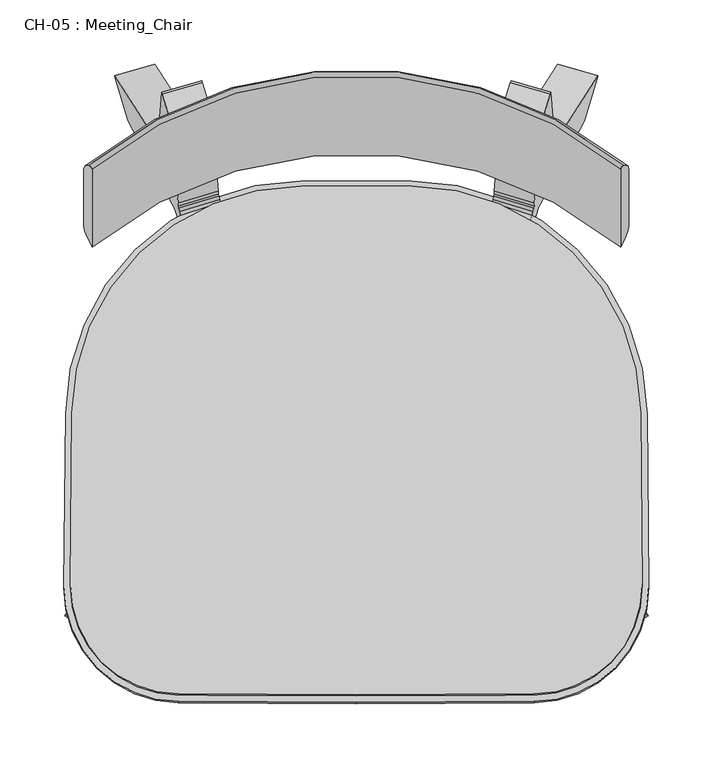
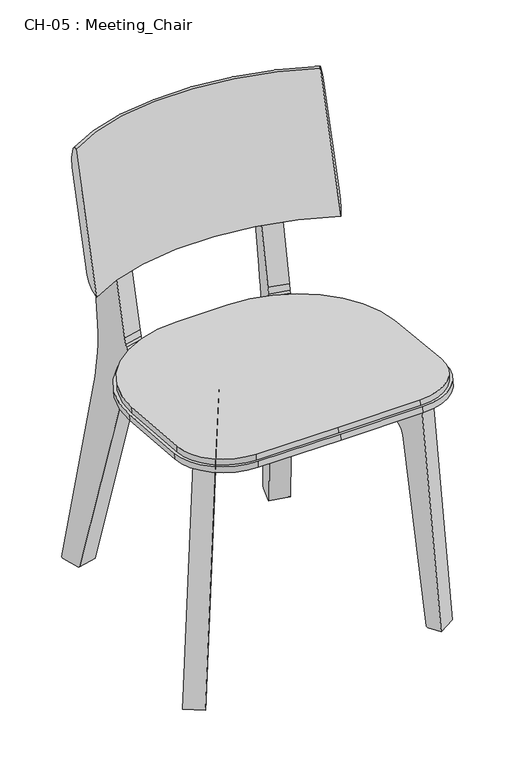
"""IFC4 building model written with IfcOpenShell, lengths in millimetres: furniture geometry, CH-05 : Meeting_Chair."""

from ifc_helpers import new_model, si_unit, point, frame, frame_2d, origin, place, context, project, spatial, polyline, circle_curve, ellipse_curve, trimmed, segment, composite_curve, outline, extrude, source, transform, mapped, element, save
from ifc_brep_helpers import plane_surface, cylinder_surface, revolved_surface, advanced_brep


def ch_05_meeting_chair_2d90cb94(model_context):
    return source(origin(), model_context, "Body", "SolidModel", [
        extrude(outline(polyline([(324.9085074, 412.8582243), (324.9085121, 368.551857), (298.595345, 368.7306395), (298.5953403, 413.1644736), (324.9085074, 412.8582243)])), frame((-90.0, 0.0, 0.0), z_axis=(1.0, 0.0, 0.0), x_axis=(0.0, 1.0, 0.0)), (0.0, 0.0, 1.0), 180.0),
        extrude(outline(polyline([(205.6104157, 418.6118557), (205.6104207, 371.693577), (180.8544505, 373.0276194), (180.872455, 421.3134785), (205.6104157, 418.6118557)])), frame((-105.0, 0.0, 0.0), z_axis=(1.0, 0.0, 0.0), x_axis=(0.0, 1.0, 0.0)), (0.0, 0.0, 1.0), 210.0),
        advanced_brep(
        [(-206.891724, 418.7142185, 783.1413521), (-209.4493241, 421.8365422, 783.1339528), (-213.3570904, 418.5644007, 753.106691), (-213.3570904, 374.0330528, 586.9134383), (-206.891724, 357.6055029, 555.0805207), (206.891724, 418.7142185, 783.1413521), (206.891724, 357.6055029, 555.0805207), (213.3570904, 374.0330528, 586.9134383), (213.3570904, 418.5644007, 753.106691), (209.4493241, 421.8365422, 783.1339528)],
        [
            (0, 1, circle_curve(frame((-208.2229511, 420.2314809, 782.7348029), z_axis=(-0.7628829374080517, -0.6245064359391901, 0.16733599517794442), x_axis=(-0.6465366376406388, 0.7368883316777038, -0.19744863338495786)), 2.0590126)),
            (1, 2, circle_curve(frame((-163.7441475, 362.0181872, 768.2582032), z_axis=(-0.7628829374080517, -0.6245064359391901, 0.16733599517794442), x_axis=(-0.6465366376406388, 0.7368883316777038, -0.19744863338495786)), 76.7364756)),
            (2, 3),
            (3, 4, circle_curve(frame((-170.5240382, 325.2142009, 599.9944103), z_axis=(-0.7628829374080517, -0.6245064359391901, 0.16733599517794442), x_axis=(-0.6465366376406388, 0.7368883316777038, -0.19744863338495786)), 66.25)),
            (4, 0),
            (5, 6),
            (6, 7, circle_curve(frame((170.5240382, 325.2142009, 599.9944103), z_axis=(0.7628829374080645, -0.6245064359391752, 0.16733599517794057), x_axis=(0.6465366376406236, 0.7368883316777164, -0.19744863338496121)), 66.25)),
            (7, 8),
            (8, 9, circle_curve(frame((163.7441475, 362.0181872, 768.2582032), z_axis=(0.7628829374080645, -0.6245064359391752, 0.16733599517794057), x_axis=(0.6465366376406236, 0.7368883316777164, -0.19744863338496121)), 76.7364756)),
            (9, 5, circle_curve(frame((208.2229511, 420.2314809, 782.7348029), z_axis=(0.7628829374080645, -0.6245064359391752, 0.16733599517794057), x_axis=(0.6465366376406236, 0.7368883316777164, -0.19744863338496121)), 2.0590126)),
            (9, 1, circle_curve(frame((0.0, 183.1172586, 847.098592), z_axis=(0.0, 0.2588190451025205, 0.9659258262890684), x_axis=(-0.6465366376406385, 0.7368883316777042, -0.1974486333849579)), 323.955847)),
            (0, 5, circle_curve(frame((0.0, 182.9099524, 846.3249148), z_axis=(0.0, -0.2588190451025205, -0.9659258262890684), x_axis=(-0.6465366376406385, 0.7368883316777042, -0.1974486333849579)), 320.0)),
            (8, 2, circle_curve(frame((0.0, 175.3912512, 818.26474), z_axis=(0.0, 0.2588190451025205, 0.9659258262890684), x_axis=(-0.6465366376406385, 0.7368883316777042, -0.1974486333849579)), 330.0)),
            (7, 3, circle_curve(frame((0.0, 130.8599034, 652.0714873), z_axis=(0.0, 0.2588190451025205, 0.9659258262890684), x_axis=(-0.6465366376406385, 0.7368883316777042, -0.1974486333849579)), 330.0)),
            (6, 4, circle_curve(frame((0.0, 121.8012368, 618.2640834), z_axis=(0.0, 0.2588190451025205, 0.9659258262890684), x_axis=(-0.6465366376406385, 0.7368883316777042, -0.1974486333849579)), 320.0)),
        ],
        [
            plane_surface(frame((-206.891724, 222.6569292, 51.4455873), z_axis=(-0.7628829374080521, -0.6245064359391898, 0.16733599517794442), x_axis=(0.0, 0.2588190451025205, 0.9659258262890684))),
            plane_surface(frame((206.891724, 222.6569292, 51.4455873), z_axis=(0.7628829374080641, -0.6245064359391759, 0.1673359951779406), x_axis=(0.0, 0.25881904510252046, 0.9659258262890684))),
            revolved_surface(trimmed(ellipse_curve(frame((-208.2229511, 420.2314809, 782.7348029), z_axis=(-0.7628829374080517, -0.6245064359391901, 0.16733599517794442), x_axis=(-0.6465366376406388, 0.7368883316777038, -0.19744863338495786)), 2.0590126, 2.0590126), [point((-206.891724, 418.7142185, 783.1413521))], [point((-209.4493241, 421.8365422, 783.1339528))], True, "CARTESIAN"), (0.0, -13.1473369, 114.6291499), (0.0, -0.2588190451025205, -0.9659258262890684)),
            revolved_surface(trimmed(ellipse_curve(frame((-163.7441475, 362.0181872, 768.2582032), z_axis=(-0.7628829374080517, -0.6245064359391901, 0.16733599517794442), x_axis=(-0.6465366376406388, 0.7368883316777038, -0.19744863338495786)), 76.7364756, 76.7364756), [point((-209.4493241, 421.8365422, 783.1339528))], [point((-213.3570904, 418.5644007, 753.106691))], True, "CARTESIAN"), (0.0, -13.1473369, 114.6291499), (0.0, -0.2588190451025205, -0.9659258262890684)),
            cylinder_surface(frame((0.0, -13.1473369, 114.6291499), z_axis=(0.0, -0.2588190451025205, -0.9659258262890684), x_axis=(-0.6465366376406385, 0.7368883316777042, -0.1974486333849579)), 330.0),
            revolved_surface(trimmed(ellipse_curve(frame((-170.5240382, 325.2142009, 599.9944103), z_axis=(-0.7628829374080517, -0.6245064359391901, 0.16733599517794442), x_axis=(-0.6465366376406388, 0.7368883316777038, -0.19744863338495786)), 66.25, 66.25), [point((-213.3570904, 374.0330528, 586.9134383))], [point((-206.891724, 357.6055029, 555.0805207))], True, "CARTESIAN"), (0.0, -13.1473369, 114.6291499), (0.0, -0.2588190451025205, -0.9659258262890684)),
            revolved_surface(polyline([(-206.8917240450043, 357.6055029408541, 555.0805206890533), (-206.8917240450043, 418.71421854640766, 783.1413521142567)]), (0.0, -13.1473369, 114.6291499), (0.0, -0.2588190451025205, -0.9659258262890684)),
        ],
        [
            (0, [[1, 2, 3, 4, 5]]),
            (1, [[6, 7, 8, 9, 10]]),
            (2, [[11, -1, 12, -10]]),
            (3, [[13, -2, -11, -9]]),
            (4, [[14, -3, -13, -8]]),
            (5, [[15, -4, -14, -7]]),
            (6, [[-12, -5, -15, -6]]),
        ],
    ),
        extrude(outline(composite_curve([segment(trimmed(circle_curve(frame_2d((0.0, -84.9999999)), 85.0), [point((0.0, 0.0))], [point((84.9991788, -85.3736383))], False, "CARTESIAN"), True, "CONTINUOUS"), segment(polyline([(84.9991788, -85.3736383), (84.4040355, -220.7630934)]), True, "CONTINUOUS"), segment(trimmed(circle_curve(frame_2d((-95.5942255, -219.9718592)), 180.0), [point((84.4040355, -220.7630934))], [point((-94.0160193, -399.9649404))], False, "CARTESIAN"), True, "CONTINUOUS"), segment(polyline([(-94.0160193, -399.9649404), (-137.296585, -400.3444309), (-180.5787502, -400.4189294)]), True, "CONTINUOUS"), segment(trimmed(circle_curve(frame_2d((-180.8885711, -220.419196)), 180.0), [point((-180.5787502, -400.4189294))], [point((-360.868631, -223.0983812))], False, "CARTESIAN"), True, "CONTINUOUS"), segment(polyline([(-360.868631, -223.0983812), (-362.8838361, -87.7226164)]), True, "CONTINUOUS"), segment(trimmed(circle_curve(frame_2d((-277.8932523, -86.4574456)), 85.0), [point((-362.8838361, -87.7226164))], [point((-278.7848139, -1.4621216))], False, "CARTESIAN"), True, "CONTINUOUS"), segment(polyline([(-278.7848139, -1.4621216), (-139.3962411, 1e-07), (0.0, 0.0)]), True, "CONTINUOUS")], self_intersect=False)), frame((-139.394324, 6.6474666, 452.8960348), z_axis=(0.0, 0.09416918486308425, 0.9955562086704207), x_axis=(-0.9999862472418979, 0.005221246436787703, -0.000493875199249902)), (0.0, 0.0, 1.0), 10.0),
        extrude(outline(composite_curve([segment(trimmed(circle_curve(frame_2d((44.4732048, -90.0)), 90.0), [point((44.4732048, 0.0))], [point((134.4723353, -90.3956171))], False, "CARTESIAN"), True, "CONTINUOUS"), segment(polyline([(134.4723353, -90.3956171), (133.8594697, -229.8167342), (131.7842553, -369.2237534)]), True, "CONTINUOUS"), segment(trimmed(circle_curve(frame_2d((41.7942253, -367.8841609)), 90.0), [point((131.7842553, -369.2237534))], [point((40.0590725, -457.8674329))], False, "CARTESIAN"), True, "CONTINUOUS"), segment(polyline([(40.0590725, -457.8674329), (-95.3065261, -455.2571699)]), True, "CONTINUOUS"), segment(trimmed(circle_curve(frame_2d((-91.739823, -270.2915552)), 185.0), [point((-95.3065261, -455.2571699))], [point((-276.7363619, -269.1599196))], False, "CARTESIAN"), True, "CONTINUOUS"), segment(polyline([(-276.7363619, -269.1599196), (-276.4714989, -225.8608836), (-275.9015299, -182.5647889)]), True, "CONTINUOUS"), segment(trimmed(circle_curve(frame_2d((-90.9175583, -185.0)), 185.0), [point((-275.9015299, -182.5647889))], [point((-90.9175583, 0.0))], False, "CARTESIAN"), True, "CONTINUOUS"), segment(polyline([(-90.9175583, 0.0), (44.4732048, 0.0)]), True, "CONTINUOUS")], self_intersect=False)), frame((228.515625, 135.4640646, 430.6655986), z_axis=(0.0, 0.09416918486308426, 0.9955562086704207), x_axis=(0.0096401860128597, -0.9955099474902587, 0.09416480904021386)), (0.0, 0.0, 1.0), 10.008852),
        extrude(outline(polyline([(-117.6379406, 0.0), (0.0, 0.0), (9.8329488, 1.0879209), (19.1912015, 4.2989921), (27.6208286, 9.4774693), (34.7138839, 16.3731856), (40.1282976, 24.6524257), (43.6013028, 33.914456), (118.1778968, 364.8593749), (120.5352261, 366.8037021), (153.178646, 366.562775), (155.1385008, 364.572923), (99.8808007, 23.806196), (96.9118476, -2.8247522), (95.8954783, -19.3284727), (95.6956417, -35.861703), (96.3143298, -52.3844793), (97.7474583, -68.8558756), (127.6906881, -336.2674709), (125.938717, -338.6671068), (100.5602932, -342.5376654), (42.607804, -69.1060629), (40.3936541, -58.5057887), (38.8469476, -54.6259035), (36.0694584, -51.4884546), (32.3815838, -49.4539716), (28.2117611, -48.7591364), (-118.0051173, -48.3454991), (-117.6379406, 0.0)])), frame((-98.9629271, 359.1655976, 366.9191486), z_axis=(-0.9585125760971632, -0.28150250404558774, 0.04483281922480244), x_axis=(-0.282060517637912, 0.9593744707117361, -0.0065183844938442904)), (0.0, 0.0, 1.0), 32.6175672),
        extrude(outline(polyline([(-139.3640646, 0.0), (1.1383457, 0.0), (-0.4623044, -48.5014654), (-211.3306109, -62.2017055), (-218.340527, 378.4708502), (-195.499657, 377.301108), (-193.4884338, 375.2061229), (-176.1411513, 34.9311643), (-174.4985454, 25.7783185), (-170.612246, 17.3302739), (-164.7321153, 10.1248821), (-157.233001, 4.6228586), (-148.5930361, 1.1745103), (-139.3640646, 0.0)])), frame((-65.965132, 245.3457116, 367.4502375), z_axis=(-0.8523243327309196, 0.5218735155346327, 0.03451471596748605), x_axis=(0.5202788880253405, 0.8527591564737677, -0.045953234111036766)), (0.0, 0.0, 1.0), 33.5598191),
        extrude(outline(polyline([(-48.296559, 0.0), (0.0507681, -1e-07), (-0.6453389, -146.0624966), (0.017808, -150.237476), (2.0242243, -153.9406954), (5.1404887, -156.7419323), (9.0085154, -158.3180604), (19.5916681, -160.6126516), (292.5752574, -220.6400812), (288.5120707, -245.9883776), (286.0991983, -247.7220738), (18.9227228, -215.7488156), (2.4626856, -214.1906343), (-14.0549154, -213.4464797), (-30.5891866, -213.5207468), (-47.10015, -214.4117471), (-73.7528783, -217.1783624), (-414.9294395, -269.8464719), (-416.9043498, -267.8715615), (-416.8973552, -235.2272532), (-414.9351811, -232.8847584), (-83.4334249, -160.8237191), (-74.1452855, -157.4211557), (-65.8251638, -152.069776), (-58.8757772, -145.0292956), (-53.6334294, -136.6392403), (-50.3513784, -127.3056444), (-49.1888112, -117.4812415), (-48.296559, 0.0)])), frame((63.7330665, 247.0144157, 415.932928), z_axis=(0.9585125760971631, -0.2815025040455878, 0.044832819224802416), x_axis=(-0.04331747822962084, 0.011606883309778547, 0.9989939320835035)), (0.0, 0.0, 1.0), 32.6175672),
        extrude(outline(polyline([(-9.3034074, 0.0), (0.0, 0.0), (9.0061745, 2.3300045), (17.1398928, 6.8412797), (23.8826229, 13.2466836), (28.8043532, 21.1365094), (31.5893193, 30.0087529), (91.7558781, 365.371185), (94.0154915, 367.1955011), (116.8212876, 365.4723346), (54.2346746, -70.789463), (-153.2169003, -30.577732), (-148.6816678, 17.737751), (-9.3034074, 0.0)])), frame((143.3376875, 118.6067284, 373.1059991), z_axis=(0.8523243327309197, 0.5218735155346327, 0.03451471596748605), x_axis=(0.5228594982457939, -0.8486139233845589, -0.08045094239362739)), (0.0, 0.0, 1.0), 33.5598191),
    ])


if __name__ == "__main__":
    model = new_model("IFC4")
    model_context = context("Model", 3, world=origin())
    ifc_project = project(units=[si_unit("LENGTHUNIT", "METRE", prefix="MILLI")], contexts=[model_context])
    site = spatial("IfcSite", under=ifc_project)
    building = spatial("IfcBuilding", under=site)
    placement = place(None, origin())
    ch_05_meeting_chair_shape = ch_05_meeting_chair_2d90cb94(model_context)
    element("IfcFurniture", 1, ObjectType="CH-05 : Meeting_Chair", at=placement, inside=building, context=model_context, shape_type="MappedRepresentation", body=[
        mapped(ch_05_meeting_chair_shape, transform((0.0, 0.0, 0.0), x_axis=(1.0, 0.0, 0.0), y_axis=(0.0, 1.0, 0.0), z_axis=(0.0, 0.0, 1.0))),
    ])
    save(model, "model.ifc")
